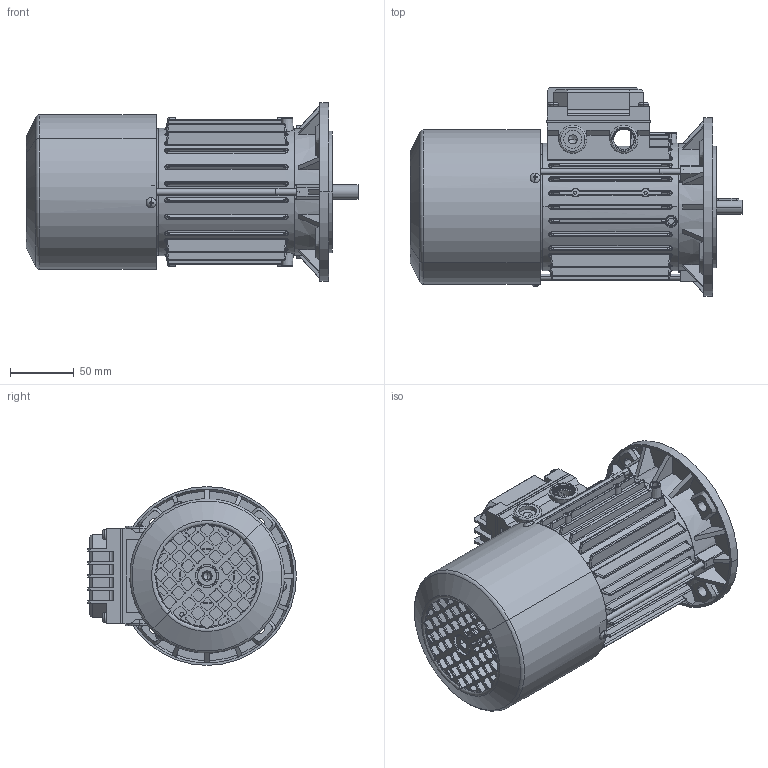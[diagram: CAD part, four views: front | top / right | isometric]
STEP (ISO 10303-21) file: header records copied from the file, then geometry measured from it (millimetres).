
FILE_DESCRIPTION (( 'STEP AP214' ), '1' );
FILE_NAME ('BM 63 B5.STEP', '2018-10-23T13:05:04', ( '' ), ( '' ), 'SwSTEP 2.0', 'SolidWorks 2018', '' );
FILE_SCHEMA (( 'AUTOMOTIVE_DESIGN' ));
Length unit declared in the file: millimetre
Products named in the file (13): Coperchio per Scatola Singola 63-71-80 con viti; Guarnizione Scatola Singola 63-71-80; Vite per coperchio morsettiera; Coperchio per Scatola Singola 63-71-80 - DBAN0095; Vite testa rotonda M3; Cuffia BM 63 - DAA20098; Tirante BM 63; Scudo a flangia B5 Fi 140 BM 63 - DAAA0094; Chiavetta 63; Scudo Lato Freno BM 63 - DAAE0094; Albero BM 63; Carcassa 63 B5; BM 63 B5
Assembly tree (19 placements, depth 3):
  BM 63 B5
    Carcassa 63 B5
    Albero BM 63
    Scudo Lato Freno BM 63 - DAAE0094
    Chiavetta 63
    Scudo a flangia B5 Fi 140 BM 63 - DAAA0094
    Tirante BM 63  x3
    Cuffia BM 63 - DAA20098
    Vite testa rotonda M3  x3
    Coperchio per Scatola Singola 63-71-80 con viti
      Coperchio per Scatola Singola 63-71-80 - DBAN0095
      Vite per coperchio morsettiera  x4
      Guarnizione Scatola Singola 63-71-80
Bounding box: 259.99 x 163.5 x 140 mm (x, y, z)
Volume: 545776.1 mm3; surface area: 364408.4 mm2
Topology: 21 solids, 21 shells, 2831 faces, 7582 edges, 4749 vertices
Faces by surface type: plane 971, cylinder 929, bspline 367, torus 273, cone 187, sphere 104
Entity records: 97848 total; most frequent: CARTESIAN_POINT 37352, ORIENTED_EDGE 13332, DIRECTION 11519, EDGE_CURVE 6666, AXIS2_PLACEMENT_3D 4365, VERTEX_POINT 4249, LINE 2789, VECTOR 2789
